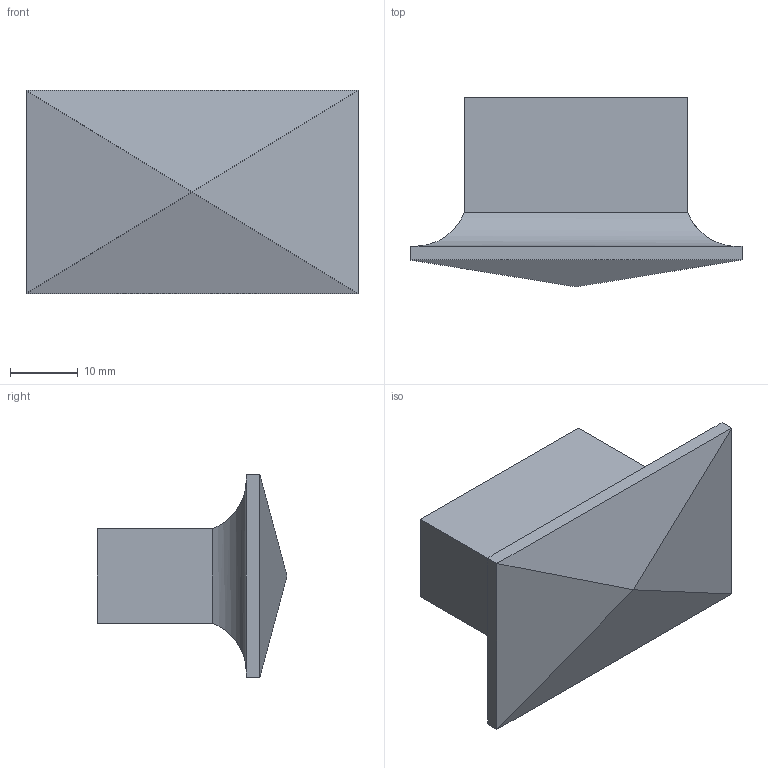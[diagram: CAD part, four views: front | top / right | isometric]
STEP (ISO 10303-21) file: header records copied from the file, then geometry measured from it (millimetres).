
FILE_DESCRIPTION( ( '' ), '1' );
FILE_NAME( 'C:/Documents and Settings/Nikhil/Desktop/Nik/Done/115340.stp', '2013-10-23T10:19:23', ( '' ), ( '' ), ' ', ' ', ' ' );
FILE_SCHEMA( ( 'automotive_design' ) );
Length unit declared in the file: millimetre
Products named in the file (1): 1
Bounding box: 49 x 28 x 30 mm (x, y, z)
Volume: 15782.3 mm3; surface area: 5365.3 mm2
Topology: 1 solids, 1 shells, 31 faces, 64 edges, 37 vertices
Faces by surface type: cylinder 16, plane 15
Entity records: 1591 total; most frequent: DIRECTION 160, STYLED_ITEM 133, PRESENTATION_STYLE_ASSIGNMENT 133, CARTESIAN_POINT 133, COLOUR_RGB 133, ORIENTED_EDGE 128, EDGE_CURVE 64, AXIS2_PLACEMENT_3D 64
